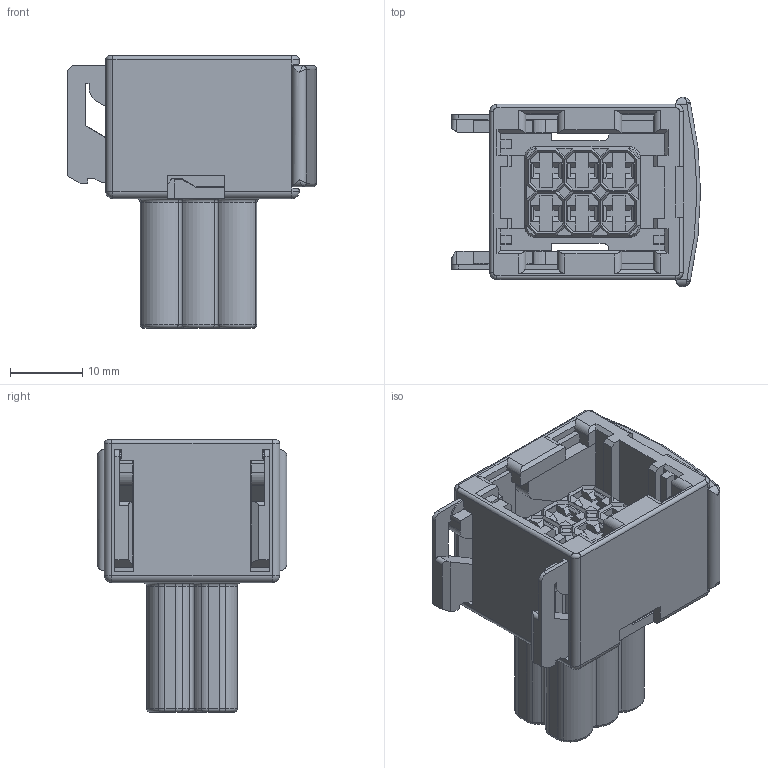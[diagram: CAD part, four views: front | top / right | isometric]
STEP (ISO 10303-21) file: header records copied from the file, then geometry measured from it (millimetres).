
FILE_DESCRIPTION((''),'2;1');
FILE_NAME('C-1-963212-1','2015-03-27T',('workeradm'),('Tyco Electronics Ltd.'),'PRO/ENGINEER BY PARAMETRIC TECHNOLOGY CORPORATION, 2014090','PRO/ENGINEER BY PARAMETRIC TECHNOLOGY CORPORATION, 2014090','');
FILE_SCHEMA(('AUTOMOTIVE_DESIGN { 1 0 10303 214 1 1 1 1 }'));
Length unit declared in the file: millimetre
Products named in the file (1): C-1-963212-1
Bounding box: 34.5 x 26.3 x 37.75 mm (x, y, z)
Volume: 12057.5 mm3; surface area: 10182 mm2
Topology: 1 solids, 1 shells, 869 faces, 2346 edges, 1472 vertices
Faces by surface type: plane 620, cylinder 119, torus 59, bspline 57, sphere 10, cone 4
Entity records: 36331 total; most frequent: CARTESIAN_POINT 7628, ORIENTED_EDGE 4692, DIRECTION 4165, PRESENTATION_STYLE_ASSIGNMENT 2347, STYLED_ITEM 2347, CURVE_STYLE 2346, EDGE_CURVE 2346, VECTOR 1819
